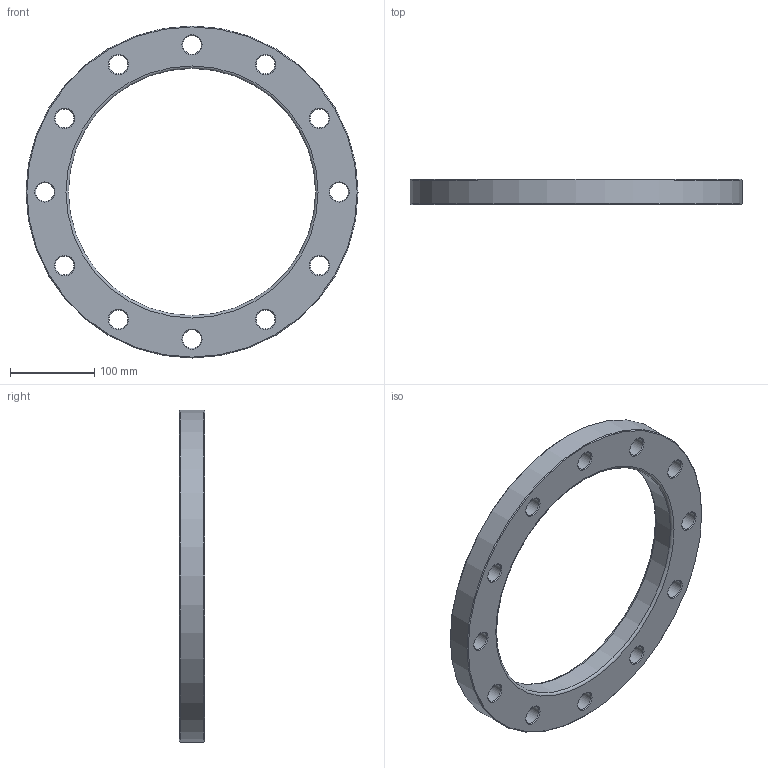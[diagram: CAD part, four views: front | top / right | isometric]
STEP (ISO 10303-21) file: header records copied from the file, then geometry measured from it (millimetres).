
FILE_DESCRIPTION(/* description */ ('Unknown'),/* implementation_level */ '2;1');
FILE_NAME(/* name */ 'FR280B',/* time_stamp */ '2022-07-06T10:15:42+02:00',/* author */ ('Unknown'),/* organization */ ('Unknown'),/* preprocessor_version */ 'ST-DEVELOPER v18.102',/* originating_system */ 'Solid Edge',/* authorisation */ 'Unknown');
FILE_SCHEMA (('AUTOMOTIVE_DESIGN {1 0 10303 214 3 1 1}'));
Length unit declared in the file: millimetre
Products named in the file (1): FR280B
Bounding box: 395 x 30 x 395 mm (x, y, z)
Volume: 1497127 mm3; surface area: 185237.7 mm2
Topology: 1 solids, 1 shells, 44 faces, 134 edges, 92 vertices
Faces by surface type: cone 26, cylinder 14, plane 2, torus 2
Full cylindrical faces by diameter (mm): 22 x12, 294 x1, 395 x1
Entity records: 1086 total; most frequent: DIRECTION 202, CARTESIAN_POINT 157, ORIENTED_EDGE 112, EDGE_LOOP 112, FACE_BOUND 112, AXIS2_PLACEMENT_3D 101, EDGE_CURVE 56, VERTEX_POINT 56
